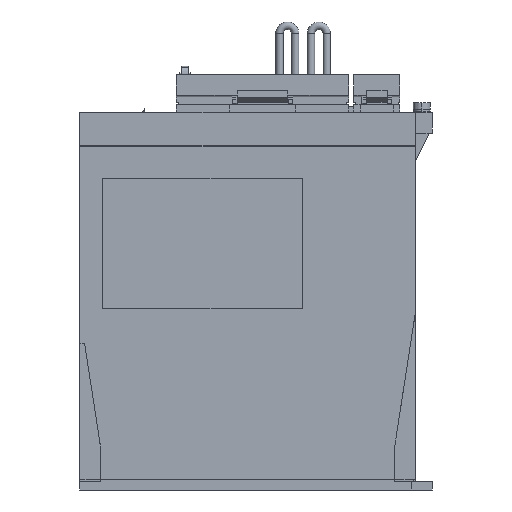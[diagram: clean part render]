
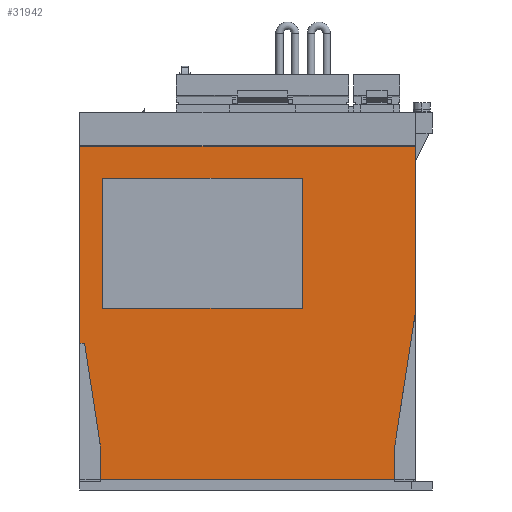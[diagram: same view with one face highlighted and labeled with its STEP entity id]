
A CAD part, left-side view. The second image highlights one B-rep face of the part: STEP entity #31942.
In plain terms, the highlighted planar face has unit normal (-1, 0, 0).
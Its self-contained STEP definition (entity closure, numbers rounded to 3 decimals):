
#9984 = VERTEX_POINT ( 'NONE', #50586 ) ;
#20659 = EDGE_CURVE ( 'NONE', #20661, #9984, #51562, .T. ) ;
#20661 = VERTEX_POINT ( 'NONE', #51558 ) ;
#31341 = VERTEX_POINT ( 'NONE', #55011 ) ;
#31350 = EDGE_CURVE ( 'NONE', #31341, #31368, #55007, .T. ) ;
#31368 = VERTEX_POINT ( 'NONE', #55044 ) ;
#31601 = EDGE_LOOP ( 'NONE', ( #31943, #31921, #31876, #31710 ) ) ;
#31702 = EDGE_LOOP ( 'NONE', ( #32094, #32106, #32119, #32022, #31957, #31965, #32277, #32269, #32272 ) ) ;
#31706 = EDGE_CURVE ( 'NONE', #31887, #31790, #55633, .T. ) ;
#31710 = ORIENTED_EDGE ( 'NONE', *, *, #31706, .F. ) ;
#31787 = VERTEX_POINT ( 'NONE', #55766 ) ;
#31790 = VERTEX_POINT ( 'NONE', #55765 ) ;
#31876 = ORIENTED_EDGE ( 'NONE', *, *, #31877, .F. ) ;
#31877 = EDGE_CURVE ( 'NONE', #31790, #31787, #55910, .T. ) ;
#31887 = VERTEX_POINT ( 'NONE', #55881 ) ;
#31904 = VERTEX_POINT ( 'NONE', #55971 ) ;
#31921 = ORIENTED_EDGE ( 'NONE', *, *, #31926, .F. ) ;
#31926 = EDGE_CURVE ( 'NONE', #31787, #31904, #55995, .T. ) ;
#31942 = ADVANCED_FACE ( 'NONE', ( #56028, #56027 ), #56026, .F. ) ;
#31943 = ORIENTED_EDGE ( 'NONE', *, *, #31952, .F. ) ;
#31952 = EDGE_CURVE ( 'NONE', #31904, #31887, #56013, .T. ) ;
#31957 = ORIENTED_EDGE ( 'NONE', *, *, #31958, .T. ) ;
#31958 = EDGE_CURVE ( 'NONE', #31970, #31960, #56070, .T. ) ;
#31960 = VERTEX_POINT ( 'NONE', #56060 ) ;
#31965 = ORIENTED_EDGE ( 'NONE', *, *, #32607, .F. ) ;
#31970 = VERTEX_POINT ( 'NONE', #56111 ) ;
#31999 = EDGE_CURVE ( 'NONE', #32080, #31970, #56136, .T. ) ;
#32022 = ORIENTED_EDGE ( 'NONE', *, *, #31999, .T. ) ;
#32080 = VERTEX_POINT ( 'NONE', #56258 ) ;
#32094 = ORIENTED_EDGE ( 'NONE', *, *, #31350, .T. ) ;
#32106 = ORIENTED_EDGE ( 'NONE', *, *, #32109, .T. ) ;
#32109 = EDGE_CURVE ( 'NONE', #31368, #32122, #56348, .T. ) ;
#32119 = ORIENTED_EDGE ( 'NONE', *, *, #32126, .F. ) ;
#32122 = VERTEX_POINT ( 'NONE', #56388 ) ;
#32126 = EDGE_CURVE ( 'NONE', #32080, #32122, #56382, .T. ) ;
#32190 = VERTEX_POINT ( 'NONE', #56464 ) ;
#32269 = ORIENTED_EDGE ( 'NONE', *, *, #20659, .F. ) ;
#32272 = ORIENTED_EDGE ( 'NONE', *, *, #32273, .F. ) ;
#32273 = EDGE_CURVE ( 'NONE', #31341, #20661, #56606, .T. ) ;
#32277 = ORIENTED_EDGE ( 'NONE', *, *, #32284, .T. ) ;
#32284 = EDGE_CURVE ( 'NONE', #32190, #9984, #56648, .T. ) ;
#32607 = EDGE_CURVE ( 'NONE', #32190, #31960, #57179, .T. ) ;
#50586 = CARTESIAN_POINT ( 'NONE',  ( -5., -155., 85. ) ) ;
#51558 = CARTESIAN_POINT ( 'NONE',  ( -5., -155., 163.8 ) ) ;
#51559 = DIRECTION ( 'NONE',  ( 0., 0., -1. ) ) ;
#51560 = VECTOR ( 'NONE', #51559, 1000. ) ;
#51561 = CARTESIAN_POINT ( 'NONE',  ( -5., -155., 347.576 ) ) ;
#51562 = LINE ( 'NONE', #51561, #51560 ) ;
#55004 = DIRECTION ( 'NONE',  ( 0., 0., -1. ) ) ;
#55005 = VECTOR ( 'NONE', #55004, 1000. ) ;
#55006 = CARTESIAN_POINT ( 'NONE',  ( -5., 5., 347.576 ) ) ;
#55007 = LINE ( 'NONE', #55006, #55005 ) ;
#55011 = CARTESIAN_POINT ( 'NONE',  ( -5., 5., 163.8 ) ) ;
#55044 = CARTESIAN_POINT ( 'NONE',  ( -5., 5., 70. ) ) ;
#55484 = VECTOR ( 'NONE', #55753, 1000. ) ;
#55630 = DIRECTION ( 'NONE',  ( 0., 0., 1. ) ) ;
#55631 = VECTOR ( 'NONE', #55630, 1000. ) ;
#55632 = CARTESIAN_POINT ( 'NONE',  ( -5., -101., 86.6 ) ) ;
#55633 = LINE ( 'NONE', #55632, #55631 ) ;
#55753 = DIRECTION ( 'NONE',  ( 0., -1., 0. ) ) ;
#55765 = CARTESIAN_POINT ( 'NONE',  ( -5., -101., 148.6 ) ) ;
#55766 = CARTESIAN_POINT ( 'NONE',  ( -5., -6., 148.6 ) ) ;
#55881 = CARTESIAN_POINT ( 'NONE',  ( -5., -101., 86.6 ) ) ;
#55904 = DIRECTION ( 'NONE',  ( 0., 1., 0. ) ) ;
#55905 = VECTOR ( 'NONE', #55904, 1000. ) ;
#55906 = CARTESIAN_POINT ( 'NONE',  ( -5., -6., 148.6 ) ) ;
#55910 = LINE ( 'NONE', #55906, #55905 ) ;
#55971 = CARTESIAN_POINT ( 'NONE',  ( -5., -6., 86.6 ) ) ;
#55992 = DIRECTION ( 'NONE',  ( 0., 0., -1. ) ) ;
#55993 = VECTOR ( 'NONE', #55992, 1000. ) ;
#55994 = CARTESIAN_POINT ( 'NONE',  ( -5., -6., 86.6 ) ) ;
#55995 = LINE ( 'NONE', #55994, #55993 ) ;
#56012 = CARTESIAN_POINT ( 'NONE',  ( -5., -6., 86.6 ) ) ;
#56013 = LINE ( 'NONE', #56012, #55484 ) ;
#56022 = DIRECTION ( 'NONE',  ( 0., 1., 0. ) ) ;
#56023 = DIRECTION ( 'NONE',  ( 1., 0., 0. ) ) ;
#56024 = CARTESIAN_POINT ( 'NONE',  ( -5., 5., 347.576 ) ) ;
#56025 = AXIS2_PLACEMENT_3D ( 'NONE', #56024, #56023, #56022 ) ;
#56026 = PLANE ( 'NONE',  #56025 ) ;
#56027 = FACE_OUTER_BOUND ( 'NONE', #31702, .T. ) ;
#56028 = FACE_BOUND ( 'NONE', #31601, .T. ) ;
#56060 = CARTESIAN_POINT ( 'NONE',  ( -5., -145., 5.2 ) ) ;
#56067 = DIRECTION ( 'NONE',  ( 0., -1., 0. ) ) ;
#56068 = VECTOR ( 'NONE', #56067, 1000. ) ;
#56069 = CARTESIAN_POINT ( 'NONE',  ( -5., -5., 5.2 ) ) ;
#56070 = LINE ( 'NONE', #56069, #56068 ) ;
#56111 = CARTESIAN_POINT ( 'NONE',  ( -5., -5., 5.2 ) ) ;
#56133 = DIRECTION ( 'NONE',  ( 0., 0., -1. ) ) ;
#56134 = VECTOR ( 'NONE', #56133, 1000. ) ;
#56135 = CARTESIAN_POINT ( 'NONE',  ( -5., -5., 20. ) ) ;
#56136 = LINE ( 'NONE', #56135, #56134 ) ;
#56258 = CARTESIAN_POINT ( 'NONE',  ( -5., -5., 20. ) ) ;
#56345 = DIRECTION ( 'NONE',  ( 0., -1., 0. ) ) ;
#56346 = VECTOR ( 'NONE', #56345, 1000. ) ;
#56347 = CARTESIAN_POINT ( 'NONE',  ( -5., 5., 70. ) ) ;
#56348 = LINE ( 'NONE', #56347, #56346 ) ;
#56373 = DIRECTION ( 'NONE',  ( 0., 0.152, 0.988 ) ) ;
#56374 = VECTOR ( 'NONE', #56373, 1000. ) ;
#56375 = CARTESIAN_POINT ( 'NONE',  ( -5., -5., 20. ) ) ;
#56382 = LINE ( 'NONE', #56375, #56374 ) ;
#56388 = CARTESIAN_POINT ( 'NONE',  ( -5., 2.692, 70. ) ) ;
#56464 = CARTESIAN_POINT ( 'NONE',  ( -5., -145., 20. ) ) ;
#56603 = DIRECTION ( 'NONE',  ( 0., -1., 0. ) ) ;
#56604 = VECTOR ( 'NONE', #56603, 1000. ) ;
#56605 = CARTESIAN_POINT ( 'NONE',  ( -5., 5., 163.8 ) ) ;
#56606 = LINE ( 'NONE', #56605, #56604 ) ;
#56645 = DIRECTION ( 'NONE',  ( 0., -0.152, 0.988 ) ) ;
#56646 = VECTOR ( 'NONE', #56645, 1000. ) ;
#56647 = CARTESIAN_POINT ( 'NONE',  ( -5., -145., 20. ) ) ;
#56648 = LINE ( 'NONE', #56647, #56646 ) ;
#57176 = DIRECTION ( 'NONE',  ( 0., 0., -1. ) ) ;
#57177 = VECTOR ( 'NONE', #57176, 1000. ) ;
#57178 = CARTESIAN_POINT ( 'NONE',  ( -5., -145., 20. ) ) ;
#57179 = LINE ( 'NONE', #57178, #57177 ) ;
